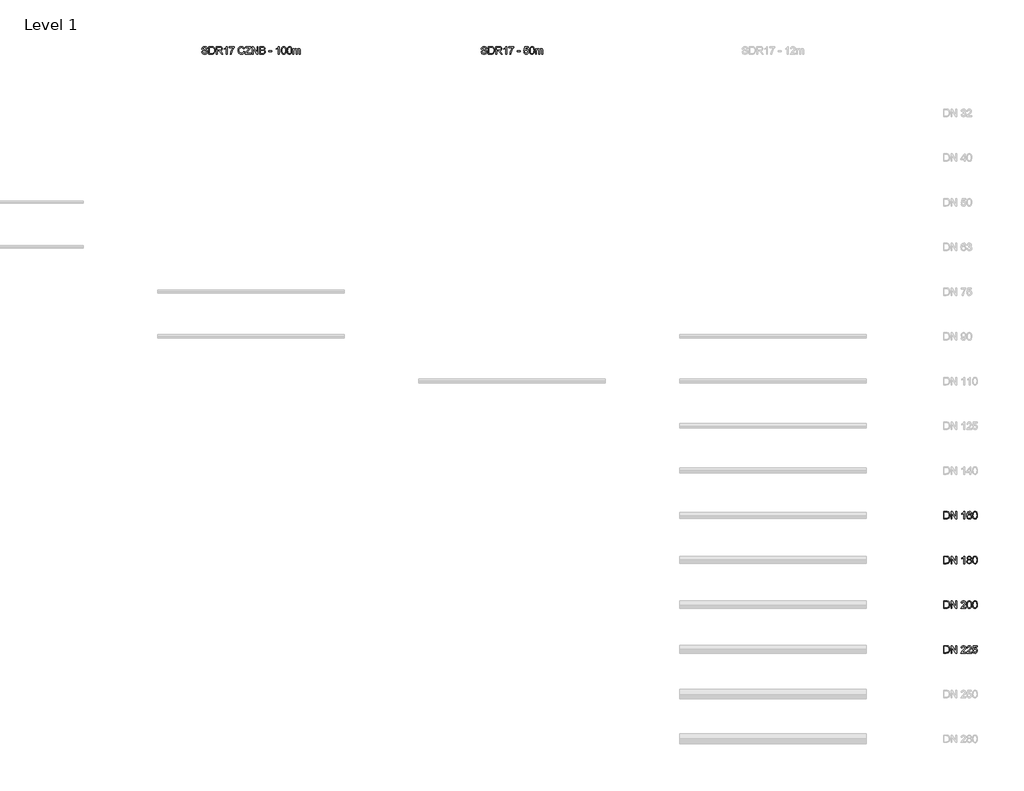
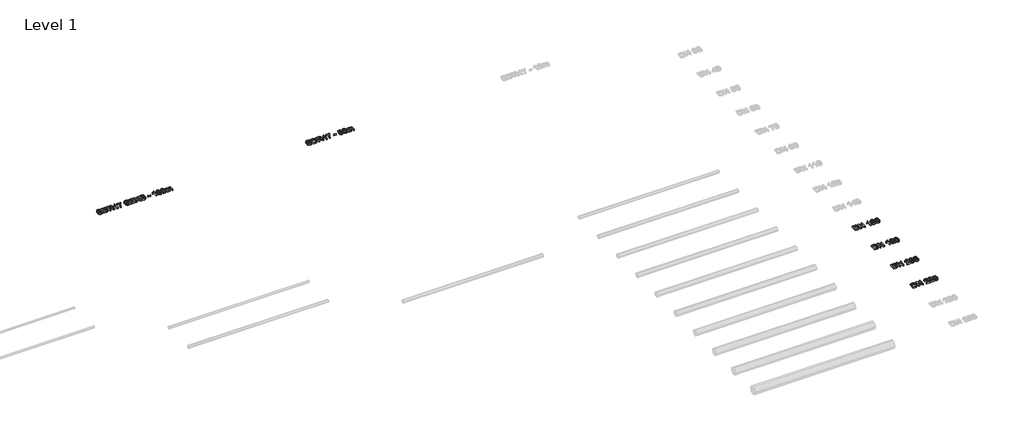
# One storey, part 20 of 26: 6 proxies.
"""IFC4 building model written with IfcOpenShell, lengths in millimetres."""

from ifc_helpers import new_model, si_unit, origin, origin_with_axes, place, context, project, spatial, polyline, outline, extrude, element, save

model = new_model("IFC4")

# Units and contexts
model_context = context("Model", 3, world=origin())
ifc_project = project(units=[si_unit("LENGTHUNIT", "METRE", prefix="MILLI")], contexts=[model_context])

# Site, building, storey
site = spatial("IfcSite", under=ifc_project)
building = spatial("IfcBuilding", under=site)
storey = spatial("IfcBuildingStorey", under=building, Name="Level 1", Elevation=0.0)

# Proxies
placement = place(None, origin())
element("IfcBuildingElementProxy", 1, Name="200mm Arial", ObjectType="200mm Arial", at=placement, inside=storey, context=model_context, shape_type="SweptSolid", body=[
    extrude(outline(polyline([(25539.3076926, -49213.949573), (25539.3076926, -49013.0369527), (25608.6166605, -49013.0369527), (25644.4728923, -49015.9309577), (25660.4880218, -49021.5105013), (25674.0015538, -49030.302881), (25687.8952305, -49045.606772), (25697.7912562, -49064.6385338), (25703.7141563, -49087.0302846), (25705.6884563, -49112.4141423), (25700.3419047, -49152.9547382), (25686.6076435, -49182.2136195), (25668.2625947, -49200.436041), (25644.2521631, -49210.5160077), (25611.9521239, -49213.949573), (25539.3076926, -49213.949573)]), holes=[polyline([(25564.4217702, -49188.8354954), (25608.8619152, -49188.8354954), (25641.1864798, -49185.2057264), (25659.8258342, -49174.9540815), (25668.5507689, -49164.0831685), (25675.1051998, -49150.0116822), (25679.207084, -49132.6783089), (25680.5743788, -49112.0217348), (25677.8949716, -49084.6513144), (25669.85675, -49064.4423301), (25657.9802929, -49050.5609162), (25643.7861793, -49042.1732067), (25608.1752021, -49038.1510302), (25564.4217702, -49038.1510302), (25564.4217702, -49188.8354954)])]), origin_with_axes(), (0.0, 0.0, 1.0), 50.0),
    extrude(outline(polyline([(25740.2203129, -49213.949573), (25740.2203129, -49013.0369527), (25767.100224, -49013.0369527), (25872.06922, -49172.2072292), (25872.06922, -49013.0369527), (25897.1832975, -49013.0369527), (25897.1832975, -49213.949573), (25870.3033864, -49213.949573), (25765.3343905, -49054.7302454), (25765.3343905, -49213.949573), (25740.2203129, -49213.949573)])), origin_with_axes(), (0.0, 0.0, 1.0), 50.0),
    extrude(outline(polyline([(26104.3744372, -49213.949573), (26079.2603597, -49213.949573), (26079.2603597, -49057.3789958), (26055.4706573, -49074.3260931), (26029.0322046, -49087.0057592), (26029.0322046, -49063.2651077), (26065.8449296, -49039.769711), (26079.315542, -49026.1948653), (26088.1876294, -49013.0369527), (26104.3744372, -49013.0369527), (26104.3744372, -49213.949573)])), origin_with_axes(), (0.0, 0.0, 1.0), 50.0),
    extrude(outline(polyline([(26292.7300188, -49066.4043674), (26267.6159412, -49069.5436271), (26258.1000603, -49048.5988789), (26246.7079812, -49040.7629924), (26232.9369318, -49038.1510302), (26210.2754009, -49044.2333458), (26200.8392277, -49053.8411973), (26193.1320999, -49067.066555), (26187.9265697, -49085.7733545), (26185.9951892, -49111.8255311), (26196.0690245, -49100.0717013), (26208.1416853, -49091.7882251), (26221.5387213, -49086.8770005), (26235.5856822, -49085.2399256), (26258.7867733, -49089.7158232), (26278.2599936, -49103.143516), (26291.4669572, -49123.6590686), (26295.8692784, -49149.3985455), (26293.7968765, -49167.3818437), (26287.5796708, -49184.0530295), (26277.7326961, -49198.1919608), (26264.7709871, -49208.5784958), (26249.2831551, -49214.9612484), (26231.8578113, -49217.0888326), (26203.3653508, -49211.4479754), (26180.673163, -49194.5254036), (26172.0141406, -49181.4165418), (26165.8291245, -49164.6533856), (26160.8811117, -49120.1641897), (26166.3748161, -49070.144501), (26173.2419467, -49051.0667539), (26182.8559295, -49035.9437382), (26193.276187, -49025.9220195), (26205.3580449, -49018.763649), (26234.5065616, -49013.0369527), (26256.5426932, -49016.5808825), (26274.1887662, -49027.2126722), (26286.5496012, -49044.0984558), (26292.7300188, -49066.4043674)]), holes=[polyline([(26185.9951892, -49149.0061381), (26191.8077247, -49170.7602267), (26207.2587685, -49186.554627), (26229.895774, -49191.9747551), (26246.4688579, -49189.1665892), (26259.4980119, -49180.7420915), (26267.9409036, -49167.4983397), (26270.7552009, -49150.2324114), (26267.9776918, -49133.6593275), (26259.6451647, -49121.022581), (26246.3952815, -49113.0211476), (26228.8657044, -49110.3540031), (26212.317146, -49113.0211476), (26198.4786516, -49121.022581), (26189.1160548, -49133.3527592), (26185.9951892, -49149.0061381)])]), origin_with_axes(), (0.0, 0.0, 1.0), 50.0),
    extrude(outline(polyline([(26317.8440963, -49115.1119436), (26319.6896376, -49082.9529258), (26325.2262617, -49057.3054194), (26334.3987861, -49037.7770168), (26347.1520286, -49023.9753106), (26363.5779597, -49015.7715422), (26383.7685498, -49013.0369527), (26399.2441191, -49014.6556334), (26413.1010076, -49019.5116758), (26424.6892904, -49027.4150073), (26433.3590428, -49038.1755557), (26445.1312666, -49067.9004209), (26449.6930034, -49115.1119436), (26447.8658561, -49147.0870203), (26442.3844144, -49172.6732131), (26433.2670723, -49192.2200098), (26420.5322239, -49206.0768983), (26404.0695046, -49214.335849), (26383.7685498, -49217.0888326), (26357.6734536, -49212.3063667), (26337.8568768, -49197.9589689), (26329.1012853, -49182.8298218), (26322.8472914, -49163.9789353), (26317.8440963, -49115.1119436)]), holes=[polyline([(26342.9581738, -49115.0628927), (26345.9012298, -49154.5672876), (26354.7303977, -49177.4311536), (26367.8760476, -49188.3388547), (26383.7685498, -49191.9747551), (26399.661052, -49188.326592), (26412.806702, -49177.3821026), (26421.6358699, -49154.5059739), (26424.5789258, -49115.0628927), (26421.7339717, -49076.4475459), (26413.1991094, -49053.4058703), (26400.0779849, -49041.9647402), (26383.4742442, -49038.1510302), (26367.7534203, -49041.5110191), (26355.1228051, -49051.5909857), (26345.9993317, -49076.0674012), (26342.9581738, -49115.0628927)])]), origin_with_axes(), (0.0, 0.0, 1.0), 50.0),
])
element("IfcBuildingElementProxy", 2, Name="200mm Arial", ObjectType="200mm Arial", at=placement, inside=storey, context=model_context, shape_type="SweptSolid", body=[
    extrude(outline(polyline([(25539.3076926, -51613.949573), (25539.3076926, -51413.0369527), (25608.6166605, -51413.0369527), (25644.4728923, -51415.9309577), (25660.4880218, -51421.5105013), (25674.0015538, -51430.302881), (25687.8952305, -51445.606772), (25697.7912562, -51464.6385338), (25703.7141563, -51487.0302846), (25705.6884563, -51512.4141423), (25700.3419047, -51552.9547382), (25686.6076435, -51582.2136195), (25668.2625947, -51600.436041), (25644.2521631, -51610.5160077), (25611.9521239, -51613.949573), (25539.3076926, -51613.949573)]), holes=[polyline([(25564.4217702, -51588.8354954), (25608.8619152, -51588.8354954), (25641.1864798, -51585.2057264), (25659.8258342, -51574.9540815), (25668.5507689, -51564.0831685), (25675.1051998, -51550.0116822), (25679.207084, -51532.6783089), (25680.5743788, -51512.0217348), (25677.8949716, -51484.6513144), (25669.85675, -51464.4423301), (25657.9802929, -51450.5609162), (25643.7861793, -51442.1732067), (25608.1752021, -51438.1510302), (25564.4217702, -51438.1510302), (25564.4217702, -51588.8354954)])]), origin_with_axes(), (0.0, 0.0, 1.0), 50.0),
    extrude(outline(polyline([(25740.2203129, -51613.949573), (25740.2203129, -51413.0369527), (25767.100224, -51413.0369527), (25872.06922, -51572.2072292), (25872.06922, -51413.0369527), (25897.1832975, -51413.0369527), (25897.1832975, -51613.949573), (25870.3033864, -51613.949573), (25765.3343905, -51454.7302454), (25765.3343905, -51613.949573), (25740.2203129, -51613.949573)])), origin_with_axes(), (0.0, 0.0, 1.0), 50.0),
    extrude(outline(polyline([(26138.9062938, -51588.8354954), (26138.9062938, -51613.949573), (26007.0573868, -51613.949573), (26009.7551881, -51596.6345937), (26025.0100281, -51569.9754118), (26056.451676, -51540.8636832), (26099.8127005, -51499.0232377), (26107.9428926, -51484.6022634), (26110.6529566, -51470.5736967), (26108.0961767, -51457.9982638), (26100.4258371, -51447.5442838), (26088.6352192, -51440.4993436), (26073.7176043, -51438.1510302), (26058.0519627, -51440.4441613), (26045.8812, -51447.3235546), (26038.0269194, -51458.2496499), (26035.310724, -51472.6828868), (26010.1966465, -51469.5436271), (26016.2850935, -51445.2511527), (26029.4491375, -51427.5069778), (26049.0020656, -51416.6544589), (26074.2571645, -51413.0369527), (26099.6962045, -51417.0591291), (26119.2123444, -51429.1256586), (26131.6283617, -51447.1518763), (26135.7670341, -51469.0531178), (26131.3033993, -51492.8673456), (26116.4654921, -51517.4909138), (26080.486633, -51551.9001431), (26051.5956336, -51576.0577275), (26040.2648682, -51588.8354954), (26138.9062938, -51588.8354954)])), origin_with_axes(), (0.0, 0.0, 1.0), 50.0),
    extrude(outline(polyline([(26164.0203714, -51515.1119436), (26165.8659127, -51482.9529258), (26171.4025367, -51457.3054194), (26180.5750612, -51437.7770168), (26193.3283037, -51423.9753106), (26209.7542347, -51415.7715422), (26229.9448249, -51413.0369527), (26245.4203942, -51414.6556334), (26259.2772827, -51419.5116758), (26270.8655655, -51427.4150073), (26279.5353179, -51438.1755557), (26291.3075417, -51467.9004209), (26295.8692784, -51515.1119436), (26294.0421312, -51547.0870203), (26288.5606895, -51572.6732131), (26279.4433474, -51592.2200098), (26266.708499, -51606.0768983), (26250.2457797, -51614.335849), (26229.9448249, -51617.0888326), (26203.8497287, -51612.3063667), (26184.0331519, -51597.9589689), (26175.2775604, -51582.8298218), (26169.0235665, -51563.9789353), (26164.0203714, -51515.1119436)]), holes=[polyline([(26189.1344489, -51515.0628927), (26192.0775049, -51554.5672876), (26200.9066728, -51577.4311536), (26214.0523227, -51588.3388547), (26229.9448249, -51591.9747551), (26245.8373271, -51588.326592), (26258.9829771, -51577.3821026), (26267.8121449, -51554.5059739), (26270.7552009, -51515.0628927), (26267.9102468, -51476.4475459), (26259.3753845, -51453.4058703), (26246.25426, -51441.9647402), (26229.6505193, -51438.1510302), (26213.9296954, -51441.5110191), (26201.2990802, -51451.5909857), (26192.1756067, -51476.0674012), (26189.1344489, -51515.0628927)])]), origin_with_axes(), (0.0, 0.0, 1.0), 50.0),
    extrude(outline(polyline([(26317.8440963, -51515.1119436), (26319.6896376, -51482.9529258), (26325.2262617, -51457.3054194), (26334.3987861, -51437.7770168), (26347.1520286, -51423.9753106), (26363.5779597, -51415.7715422), (26383.7685498, -51413.0369527), (26399.2441191, -51414.6556334), (26413.1010076, -51419.5116758), (26424.6892904, -51427.4150073), (26433.3590428, -51438.1755557), (26445.1312666, -51467.9004209), (26449.6930034, -51515.1119436), (26447.8658561, -51547.0870203), (26442.3844144, -51572.6732131), (26433.2670723, -51592.2200098), (26420.5322239, -51606.0768983), (26404.0695046, -51614.335849), (26383.7685498, -51617.0888326), (26357.6734536, -51612.3063667), (26337.8568768, -51597.9589689), (26329.1012853, -51582.8298218), (26322.8472914, -51563.9789353), (26317.8440963, -51515.1119436)]), holes=[polyline([(26342.9581738, -51515.0628927), (26345.9012298, -51554.5672876), (26354.7303977, -51577.4311536), (26367.8760476, -51588.3388547), (26383.7685498, -51591.9747551), (26399.661052, -51588.326592), (26412.806702, -51577.3821026), (26421.6358699, -51554.5059739), (26424.5789258, -51515.0628927), (26421.7339717, -51476.4475459), (26413.1991094, -51453.4058703), (26400.0779849, -51441.9647402), (26383.4742442, -51438.1510302), (26367.7534203, -51441.5110191), (26355.1228051, -51451.5909857), (26345.9993317, -51476.0674012), (26342.9581738, -51515.0628927)])]), origin_with_axes(), (0.0, 0.0, 1.0), 50.0),
])
element("IfcBuildingElementProxy", 3, Name="200mm Arial", ObjectType="200mm Arial", at=placement, inside=storey, context=model_context, shape_type="SweptSolid", body=[
    extrude(outline(polyline([(25539.3076926, -50413.949573), (25539.3076926, -50213.0369527), (25608.6166605, -50213.0369527), (25644.4728923, -50215.9309577), (25660.4880218, -50221.5105013), (25674.0015538, -50230.302881), (25687.8952305, -50245.606772), (25697.7912562, -50264.6385338), (25703.7141563, -50287.0302846), (25705.6884563, -50312.4141423), (25700.3419047, -50352.9547382), (25686.6076435, -50382.2136195), (25668.2625947, -50400.436041), (25644.2521631, -50410.5160077), (25611.9521239, -50413.949573), (25539.3076926, -50413.949573)]), holes=[polyline([(25564.4217702, -50388.8354954), (25608.8619152, -50388.8354954), (25641.1864798, -50385.2057264), (25659.8258342, -50374.9540815), (25668.5507689, -50364.0831685), (25675.1051998, -50350.0116822), (25679.207084, -50332.6783089), (25680.5743788, -50312.0217348), (25677.8949716, -50284.6513144), (25669.85675, -50264.4423301), (25657.9802929, -50250.5609162), (25643.7861793, -50242.1732067), (25608.1752021, -50238.1510302), (25564.4217702, -50238.1510302), (25564.4217702, -50388.8354954)])]), origin_with_axes(), (0.0, 0.0, 1.0), 50.0),
    extrude(outline(polyline([(25740.2203129, -50413.949573), (25740.2203129, -50213.0369527), (25767.100224, -50213.0369527), (25872.06922, -50372.2072292), (25872.06922, -50213.0369527), (25897.1832975, -50213.0369527), (25897.1832975, -50413.949573), (25870.3033864, -50413.949573), (25765.3343905, -50254.7302454), (25765.3343905, -50413.949573), (25740.2203129, -50413.949573)])), origin_with_axes(), (0.0, 0.0, 1.0), 50.0),
    extrude(outline(polyline([(26104.3744372, -50413.949573), (26079.2603597, -50413.949573), (26079.2603597, -50257.3789958), (26055.4706573, -50274.3260931), (26029.0322046, -50287.0057592), (26029.0322046, -50263.2651077), (26065.8449296, -50239.769711), (26079.315542, -50226.1948653), (26088.1876294, -50213.0369527), (26104.3744372, -50213.0369527), (26104.3744372, -50413.949573)])), origin_with_axes(), (0.0, 0.0, 1.0), 50.0),
    extrude(outline(polyline([(26200.6123672, -50303.2906688), (26187.1662802, -50296.6687929), (26177.7301071, -50287.6924722), (26172.1566948, -50276.5456478), (26170.2988908, -50263.4122605), (26174.3455927, -50243.7796247), (26186.4856985, -50227.5560287), (26205.3580449, -50216.6667217), (26229.6014684, -50213.0369527), (26253.9920447, -50216.7525608), (26273.1096457, -50227.8993853), (26285.4704807, -50244.3804986), (26289.5907591, -50264.0989736), (26287.7574804, -50276.8092965), (26282.2576446, -50287.7660486), (26273.0299379, -50296.687187), (26260.0130466, -50303.2906688), (26275.4702218, -50311.255314), (26286.7212795, -50322.9846183), (26293.5822787, -50337.9144959), (26295.8692784, -50355.4808612), (26291.3320672, -50379.4912927), (26277.7204333, -50399.332395), (26256.7021087, -50412.6497232), (26229.9448249, -50417.0888326), (26203.1875411, -50412.6313291), (26182.1692165, -50399.2588186), (26168.5575826, -50379.227644), (26164.0203714, -50354.7941481), (26166.3993416, -50336.5472012), (26173.5362523, -50321.5376158), (26185.0632215, -50310.2804267), (26200.6123672, -50303.2906688)]), holes=[polyline([(26195.4129683, -50264.1480245), (26197.6386544, -50275.110908), (26204.3157126, -50283.8664995), (26215.2479392, -50289.6054586), (26230.2391305, -50291.518445), (26244.8808339, -50289.6177213), (26255.6475136, -50283.9155504), (26262.2693896, -50275.4542645), (26264.4766815, -50265.276196), (26262.1958132, -50254.7118513), (26255.353208, -50245.974654), (26244.4393755, -50240.1069361), (26229.9448249, -50238.1510302), (26215.3583038, -50240.0640166), (26204.4628654, -50245.8029757), (26197.6754426, -50254.2152106), (26195.4129683, -50264.1480245)]), polyline([(26189.1344489, -50353.9112313), (26193.3283037, -50372.8203659), (26199.1347078, -50380.9321639), (26208.1662108, -50386.97156), (26230.1410286, -50391.9747551), (26247.2352787, -50389.3443988), (26260.0620976, -50381.45333), (26268.0819251, -50369.5032966), (26270.7552009, -50354.6960463), (26267.9960859, -50339.6374099), (26259.7187411, -50327.4237277), (26246.5976166, -50319.3303238), (26229.3071628, -50316.6325225), (26212.452036, -50319.2935356), (26199.7539758, -50327.2765749), (26191.7893306, -50339.2572652), (26189.1344489, -50353.9112313)])]), origin_with_axes(), (0.0, 0.0, 1.0), 50.0),
    extrude(outline(polyline([(26317.8440963, -50315.1119436), (26319.6896376, -50282.9529258), (26325.2262617, -50257.3054194), (26334.3987861, -50237.7770168), (26347.1520286, -50223.9753106), (26363.5779597, -50215.7715422), (26383.7685498, -50213.0369527), (26399.2441191, -50214.6556334), (26413.1010076, -50219.5116758), (26424.6892904, -50227.4150073), (26433.3590428, -50238.1755557), (26445.1312666, -50267.9004209), (26449.6930034, -50315.1119436), (26447.8658561, -50347.0870203), (26442.3844144, -50372.6732131), (26433.2670723, -50392.2200098), (26420.5322239, -50406.0768983), (26404.0695046, -50414.335849), (26383.7685498, -50417.0888326), (26357.6734536, -50412.3063667), (26337.8568768, -50397.9589689), (26329.1012853, -50382.8298218), (26322.8472914, -50363.9789353), (26317.8440963, -50315.1119436)]), holes=[polyline([(26342.9581738, -50315.0628927), (26345.9012298, -50354.5672876), (26354.7303977, -50377.4311536), (26367.8760476, -50388.3388547), (26383.7685498, -50391.9747551), (26399.661052, -50388.326592), (26412.806702, -50377.3821026), (26421.6358699, -50354.5059739), (26424.5789258, -50315.0628927), (26421.7339717, -50276.4475459), (26413.1991094, -50253.4058703), (26400.0779849, -50241.9647402), (26383.4742442, -50238.1510302), (26367.7534203, -50241.5110191), (26355.1228051, -50251.5909857), (26345.9993317, -50276.0674012), (26342.9581738, -50315.0628927)])]), origin_with_axes(), (0.0, 0.0, 1.0), 50.0),
])
element("IfcBuildingElementProxy", 4, Name="200mm Arial", ObjectType="200mm Arial", at=placement, inside=storey, context=model_context, shape_type="SweptSolid", body=[
    extrude(outline(polyline([(25539.3076926, -52813.949573), (25539.3076926, -52613.0369527), (25608.6166605, -52613.0369527), (25644.4728923, -52615.9309577), (25660.4880218, -52621.5105013), (25674.0015538, -52630.302881), (25687.8952305, -52645.606772), (25697.7912562, -52664.6385338), (25703.7141563, -52687.0302846), (25705.6884563, -52712.4141423), (25700.3419047, -52752.9547382), (25686.6076435, -52782.2136195), (25668.2625947, -52800.436041), (25644.2521631, -52810.5160077), (25611.9521239, -52813.949573), (25539.3076926, -52813.949573)]), holes=[polyline([(25564.4217702, -52788.8354954), (25608.8619152, -52788.8354954), (25641.1864798, -52785.2057264), (25659.8258342, -52774.9540815), (25668.5507689, -52764.0831685), (25675.1051998, -52750.0116822), (25679.207084, -52732.6783089), (25680.5743788, -52712.0217348), (25677.8949716, -52684.6513144), (25669.85675, -52664.4423301), (25657.9802929, -52650.5609162), (25643.7861793, -52642.1732067), (25608.1752021, -52638.1510302), (25564.4217702, -52638.1510302), (25564.4217702, -52788.8354954)])]), origin_with_axes(), (0.0, 0.0, 1.0), 50.0),
    extrude(outline(polyline([(25740.2203129, -52813.949573), (25740.2203129, -52613.0369527), (25767.100224, -52613.0369527), (25872.06922, -52772.2072292), (25872.06922, -52613.0369527), (25897.1832975, -52613.0369527), (25897.1832975, -52813.949573), (25870.3033864, -52813.949573), (25765.3343905, -52654.7302454), (25765.3343905, -52813.949573), (25740.2203129, -52813.949573)])), origin_with_axes(), (0.0, 0.0, 1.0), 50.0),
    extrude(outline(polyline([(26138.9062938, -52788.8354954), (26138.9062938, -52813.949573), (26007.0573868, -52813.949573), (26009.7551881, -52796.6345937), (26025.0100281, -52769.9754118), (26056.451676, -52740.8636832), (26099.8127005, -52699.0232377), (26107.9428926, -52684.6022634), (26110.6529566, -52670.5736967), (26108.0961767, -52657.9982638), (26100.4258371, -52647.5442838), (26088.6352192, -52640.4993436), (26073.7176043, -52638.1510302), (26058.0519627, -52640.4441613), (26045.8812, -52647.3235546), (26038.0269194, -52658.2496499), (26035.310724, -52672.6828868), (26010.1966465, -52669.5436271), (26016.2850935, -52645.2511527), (26029.4491375, -52627.5069778), (26049.0020656, -52616.6544589), (26074.2571645, -52613.0369527), (26099.6962045, -52617.0591291), (26119.2123444, -52629.1256586), (26131.6283617, -52647.1518763), (26135.7670341, -52669.0531178), (26131.3033993, -52692.8673456), (26116.4654921, -52717.4909138), (26080.486633, -52751.9001431), (26051.5956336, -52776.0577275), (26040.2648682, -52788.8354954), (26138.9062938, -52788.8354954)])), origin_with_axes(), (0.0, 0.0, 1.0), 50.0),
    extrude(outline(polyline([(26292.7300188, -52788.8354954), (26292.7300188, -52813.949573), (26160.8811117, -52813.949573), (26163.578913, -52796.6345937), (26178.833753, -52769.9754118), (26210.2754009, -52740.8636832), (26253.6364254, -52699.0232377), (26261.7666175, -52684.6022634), (26264.4766815, -52670.5736967), (26261.9199017, -52657.9982638), (26254.2495621, -52647.5442838), (26242.4589441, -52640.4993436), (26227.5413292, -52638.1510302), (26211.8756876, -52640.4441613), (26199.7049249, -52647.3235546), (26191.8506443, -52658.2496499), (26189.1344489, -52672.6828868), (26164.0203714, -52669.5436271), (26170.1088184, -52645.2511527), (26183.2728625, -52627.5069778), (26202.8257905, -52616.6544589), (26228.0808895, -52613.0369527), (26253.5199294, -52617.0591291), (26273.0360693, -52629.1256586), (26285.4520866, -52647.1518763), (26289.5907591, -52669.0531178), (26285.1271242, -52692.8673456), (26270.289217, -52717.4909138), (26234.3103579, -52751.9001431), (26205.4193586, -52776.0577275), (26194.0885931, -52788.8354954), (26292.7300188, -52788.8354954)])), origin_with_axes(), (0.0, 0.0, 1.0), 50.0),
    extrude(outline(polyline([(26317.8440963, -52760.5821582), (26342.9581738, -52757.4428985), (26347.5689615, -52772.5199289), (26355.6133145, -52783.3172655), (26367.0544445, -52789.8103827), (26381.8555634, -52791.9747551), (26399.8572557, -52788.9642541), (26413.3462622, -52779.9327511), (26421.7707599, -52765.9225785), (26424.5789258, -52747.9760685), (26421.9485696, -52731.0780222), (26414.0575008, -52718.1531014), (26400.8444058, -52709.9493329), (26382.2479709, -52707.2147434), (26360.1995767, -52711.5802764), (26346.0974335, -52722.9110419), (26320.983356, -52719.7717822), (26342.9581738, -52616.1762123), (26440.2752243, -52616.1762123), (26440.2752243, -52641.2902899), (26363.26526, -52641.2902899), (26352.5231057, -52696.619742), (26370.4634843, -52685.7304349), (26389.2622543, -52682.1006659), (26412.7269942, -52686.601089), (26432.2063459, -52700.1023582), (26445.321339, -52720.6792244), (26449.6930034, -52746.4064386), (26445.756666, -52771.5205162), (26433.947654, -52793.0048247), (26423.512068, -52803.5415782), (26411.335174, -52811.0678307), (26397.4169718, -52815.5835821), (26381.7574616, -52817.0888326), (26357.0909738, -52813.2199403), (26337.4399439, -52801.6132634), (26323.9693315, -52783.6177025), (26317.8440963, -52760.5821582)])), origin_with_axes(), (0.0, 0.0, 1.0), 50.0),
])
element("IfcBuildingElementProxy", 5, Name="200mm Arial", ObjectType="200mm Arial", at=placement, inside=storey, context=model_context, shape_type="SweptSolid", body=[
    extrude(outline(polyline([(13136.9986862, -36668.9871574), (13162.1127637, -36668.9871574), (13170.2061676, -36694.1257604), (13178.3363597, -36703.016242), (13189.9736935, -36710.0182626), (13204.198464, -36714.5616053), (13220.0909662, -36716.0760528), (13246.3332152, -36711.4897906), (13263.2803124, -36698.8837009), (13268.8475933, -36682.0347055), (13264.678264, -36666.3629325), (13258.3261682, -36660.1641209), (13247.6085394, -36654.9585907), (13211.0410691, -36645.3691333), (13171.6776956, -36632.9837728), (13159.1758391, -36624.5347497), (13150.3160144, -36614.2953675), (13145.0369078, -36602.4863554), (13143.2772056, -36589.3284427), (13145.4538407, -36574.6192943), (13151.9837461, -36560.9034272), (13162.6952436, -36549.2783562), (13177.4166547, -36540.8415958), (13195.0872532, -36535.7096419), (13214.6463127, -36533.9989907), (13235.8363156, -36535.7893497), (13254.3775681, -36541.1604268), (13269.6078827, -36550.0018575), (13280.8650718, -36562.203277), (13287.9897198, -36577.0043959), (13290.8224111, -36593.6449248), (13265.7083336, -36593.6449248), (13261.0975459, -36578.6598649), (13251.4835631, -36567.8441342), (13236.461715, -36561.2958347), (13215.6273313, -36559.1130682), (13194.3024383, -36561.2713092), (13179.6729976, -36567.7460324), (13171.2117118, -36577.274176), (13168.3912831, -36588.5926788), (13170.3901086, -36598.2434498), (13176.3865852, -36606.0057599), (13190.5623047, -36612.9464668), (13217.3931649, -36620.0343266), (13261.8333099, -36632.6404163), (13276.1500509, -36641.7516271), (13286.138047, -36652.9965534), (13292.0057649, -36666.2525679), (13293.9616708, -36681.3970434), (13291.7114593, -36696.878744), (13284.9608247, -36711.4407397), (13273.9856785, -36723.973253), (13259.0619322, -36733.3665066), (13241.1154222, -36739.2342244), (13221.0719848, -36741.1901304), (13196.4668107, -36739.0809402), (13176.2149069, -36732.7533699), (13160.0832814, -36722.1828939), (13147.8389423, -36707.3449868), (13139.9785304, -36689.2697181), (13136.9986862, -36668.9871574)])), origin_with_axes(), (0.0, 0.0, 1.0), 50.0),
    extrude(outline(polyline([(13331.6327871, -36738.0508707), (13331.6327871, -36537.1382504), (13400.941755, -36537.1382504), (13436.7979868, -36540.0322554), (13452.8131163, -36545.611799), (13466.3266483, -36554.4041787), (13480.220325, -36569.7080697), (13490.1163506, -36588.7398315), (13496.0392508, -36611.1315823), (13498.0135508, -36636.51544), (13492.6669991, -36677.0560359), (13478.932738, -36706.3149172), (13460.5876892, -36724.5373387), (13436.5772576, -36734.6173054), (13404.2772184, -36738.0508707), (13331.6327871, -36738.0508707)]), holes=[polyline([(13356.7468647, -36712.9367931), (13401.1870097, -36712.9367931), (13433.5115743, -36709.3070241), (13452.1509287, -36699.0553792), (13460.8758634, -36688.1844662), (13467.4302943, -36674.1129799), (13471.5321785, -36656.7796066), (13472.8994733, -36636.1230325), (13470.2200661, -36608.7526121), (13462.1818445, -36588.5436278), (13450.3053874, -36574.6622139), (13436.1112737, -36566.2745044), (13400.5002966, -36562.2523279), (13356.7468647, -36562.2523279), (13356.7468647, -36712.9367931)])]), origin_with_axes(), (0.0, 0.0, 1.0), 50.0),
    extrude(outline(polyline([(13532.5454074, -36738.0508707), (13532.5454074, -36537.1382504), (13619.1203036, -36537.1382504), (13642.3888398, -36538.4932824), (13659.317543, -36542.5583784), (13671.6906407, -36550.0631711), (13681.2923608, -36561.7372931), (13687.4543842, -36576.2134496), (13689.508392, -36592.1243459), (13686.1054836, -36611.9163972), (13675.8967582, -36628.3239342), (13658.5756476, -36640.3536755), (13633.8355834, -36647.0123396), (13648.1094048, -36657.7544938), (13668.4655419, -36683.6043354), (13701.9673289, -36738.0508707), (13672.782024, -36738.0508707), (13646.6378769, -36696.4066288), (13627.7532678, -36668.8400046), (13614.4849905, -36655.816982), (13602.5410884, -36651.0345161), (13587.9729614, -36650.1515993), (13557.659485, -36650.1515993), (13557.659485, -36738.0508707), (13532.5454074, -36738.0508707)]), holes=[polyline([(13557.659485, -36625.0375217), (13613.8718538, -36625.0375217), (13642.542124, -36621.4813291), (13651.9721658, -36616.8582787), (13658.8270336, -36610.1015127), (13664.3943145, -36593.0563136), (13661.7394328, -36580.8058432), (13653.7747876, -36570.934343), (13640.0711832, -36564.4228317), (13620.1994241, -36562.2523279), (13557.659485, -36562.2523279), (13557.659485, -36625.0375217)])]), origin_with_axes(), (0.0, 0.0, 1.0), 50.0),
    extrude(outline(polyline([(13818.2180394, -36738.0508707), (13793.1039619, -36738.0508707), (13793.1039619, -36581.4802935), (13769.3142595, -36598.4273908), (13742.8758068, -36611.1070569), (13742.8758068, -36587.3664054), (13779.6885318, -36563.8710087), (13793.1591442, -36550.2961631), (13802.0312316, -36537.1382504), (13818.2180394, -36537.1382504), (13818.2180394, -36738.0508707)])), origin_with_axes(), (0.0, 0.0, 1.0), 50.0),
    extrude(outline(polyline([(13877.8639736, -36565.3915876), (13877.8639736, -36540.2775101), (14009.7128806, -36540.2775101), (14009.7128806, -36560.5845962), (13990.920242, -36584.3681672), (13972.3115445, -36614.6141985), (13955.8978761, -36648.5635753), (13943.6903252, -36683.4571826), (13934.370648, -36738.0508707), (13909.2565705, -36738.0508707), (13911.9727659, -36712.1642409), (13919.2384353, -36681.3970434), (13930.857375, -36648.7843045), (13946.6333812, -36617.3610508), (13965.0520064, -36588.9544294), (13984.5988031, -36565.3915876), (13877.8639736, -36565.3915876)])), origin_with_axes(), (0.0, 0.0, 1.0), 50.0),
    extrude(outline(polyline([(14103.8906714, -36678.4049365), (14103.8906714, -36653.290859), (14182.3721637, -36653.290859), (14182.3721637, -36678.4049365), (14103.8906714, -36678.4049365)])), origin_with_axes(), (0.0, 0.0, 1.0), 50.0),
    extrude(outline(polyline([(14282.8284738, -36684.6834559), (14307.9425514, -36681.5441962), (14312.5533391, -36696.6212266), (14320.597692, -36707.4185632), (14332.0388221, -36713.9116804), (14346.839941, -36716.0760528), (14364.8416333, -36713.0655518), (14378.3306398, -36704.0340488), (14386.7551375, -36690.0238762), (14389.5633034, -36672.0773662), (14386.9329471, -36655.1793199), (14379.0418783, -36642.2543991), (14365.8287833, -36634.0506306), (14347.2323485, -36631.3160411), (14325.1839542, -36635.6815741), (14311.0818111, -36647.0123396), (14285.9677335, -36643.8730799), (14307.9425514, -36540.2775101), (14405.2596018, -36540.2775101), (14405.2596018, -36565.3915876), (14328.2496375, -36565.3915876), (14317.5074833, -36620.7210397), (14335.4478619, -36609.8317326), (14354.2466318, -36606.2019636), (14377.7113718, -36610.7023867), (14397.1907234, -36624.2036559), (14410.3057165, -36644.7805221), (14414.6773809, -36670.5077363), (14410.7410436, -36695.6218139), (14398.9320315, -36717.1061224), (14388.4964456, -36727.6428759), (14376.3195516, -36735.1691284), (14362.4013494, -36739.6848799), (14346.7418391, -36741.1901304), (14322.0753514, -36737.321238), (14302.4243215, -36725.7145611), (14288.9537091, -36707.7190002), (14282.8284738, -36684.6834559)])), origin_with_axes(), (0.0, 0.0, 1.0), 50.0),
    extrude(outline(polyline([(14436.6521988, -36639.2132413), (14438.4977401, -36607.0542235), (14444.0343641, -36581.4067171), (14453.2068885, -36561.8783145), (14465.960131, -36548.0766083), (14482.3860621, -36539.8728399), (14502.5766523, -36537.1382504), (14518.0522216, -36538.7569311), (14531.90911, -36543.6129735), (14543.4973929, -36551.516305), (14552.1671452, -36562.2768534), (14563.9393691, -36592.0017186), (14568.5011058, -36639.2132413), (14566.6739586, -36671.188318), (14561.1925169, -36696.7745108), (14552.0751748, -36716.3213075), (14539.3403264, -36730.178196), (14522.8776071, -36738.4371468), (14502.5766523, -36741.1901304), (14476.4815561, -36736.4076644), (14456.6649793, -36722.0602666), (14447.9093878, -36706.9311195), (14441.6553939, -36688.080233), (14436.6521988, -36639.2132413)]), holes=[polyline([(14461.7662763, -36639.1641904), (14464.7093323, -36678.6685853), (14473.5385001, -36701.5324513), (14486.6841501, -36712.4401524), (14502.5766523, -36716.0760528), (14518.4691545, -36712.4278897), (14531.6148045, -36701.4834003), (14540.4439723, -36678.6072716), (14543.3870283, -36639.1641904), (14540.5420742, -36600.5488436), (14532.0072119, -36577.507168), (14518.8860874, -36566.0660379), (14502.2823467, -36562.2523279), (14486.5615228, -36565.6123168), (14473.9309076, -36575.6922835), (14464.8074341, -36600.1686989), (14461.7662763, -36639.1641904)])]), origin_with_axes(), (0.0, 0.0, 1.0), 50.0),
    extrude(outline(polyline([(14596.7544431, -36738.0508707), (14596.7544431, -36590.5056651), (14621.8685206, -36590.5056651), (14621.8685206, -36614.7858768), (14629.4223642, -36603.632921), (14639.1344489, -36594.8957236), (14650.6736808, -36589.248735), (14663.7089662, -36587.3664054), (14677.6762193, -36589.2855232), (14688.8720947, -36595.0428764), (14697.2352787, -36604.2583204), (14702.7044577, -36616.5517104), (14711.858588, -36603.7831395), (14722.3003053, -36594.6627317), (14734.0296096, -36589.190487), (14747.0465008, -36587.3664054), (14765.9249785, -36590.4014319), (14779.8861003, -36599.5065113), (14788.5129331, -36614.9268982), (14791.388544, -36636.9078475), (14791.388544, -36738.0508707), (14766.2744664, -36738.0508707), (14766.2744664, -36647.6990526), (14763.9445471, -36626.7297789), (14755.5077867, -36616.4045576), (14741.1603889, -36612.480483), (14727.5548865, -36614.9943433), (14716.4632443, -36622.5359242), (14709.0872103, -36635.6202605), (14706.6285323, -36654.762387), (14706.6285323, -36738.0508707), (14681.5144548, -36738.0508707), (14681.5144548, -36644.9031495), (14680.0613209, -36630.7029045), (14675.7019192, -36620.5738869), (14668.0315796, -36614.5038339), (14656.6456319, -36612.480483), (14638.0553284, -36617.8760856), (14630.6976885, -36624.5224869), (14625.6944934, -36633.6704859), (14621.8685206, -36663.6406058), (14621.8685206, -36738.0508707), (14596.7544431, -36738.0508707)])), origin_with_axes(), (0.0, 0.0, 1.0), 50.0),
])
element("IfcBuildingElementProxy", 6, Name="200mm Arial", ObjectType="200mm Arial", at=placement, inside=storey, context=model_context, shape_type="SweptSolid", body=[
    extrude(outline(polyline([(5642.5652847, -36668.9871574), (5667.6793622, -36668.9871574), (5675.7727661, -36694.1257604), (5683.9029582, -36703.016242), (5695.540292, -36710.0182626), (5709.7650625, -36714.5616053), (5725.6575647, -36716.0760528), (5751.8998137, -36711.4897906), (5768.8469109, -36698.8837009), (5774.4141918, -36682.0347055), (5770.2448625, -36666.3629325), (5763.8927667, -36660.1641209), (5753.1751379, -36654.9585907), (5716.6076676, -36645.3691333), (5677.2442941, -36632.9837728), (5664.7424376, -36624.5347497), (5655.8826129, -36614.2953675), (5650.6035063, -36602.4863554), (5648.8438041, -36589.3284427), (5651.0204392, -36574.6192943), (5657.5503446, -36560.9034272), (5668.261842, -36549.2783562), (5682.9832532, -36540.8415958), (5700.6538517, -36535.7096419), (5720.2129111, -36533.9989907), (5741.4029141, -36535.7893497), (5759.9441666, -36541.1604268), (5775.1744812, -36550.0018575), (5786.4316703, -36562.203277), (5793.5563182, -36577.0043959), (5796.3890096, -36593.6449248), (5771.2749321, -36593.6449248), (5766.6641444, -36578.6598649), (5757.0501616, -36567.8441342), (5742.0283134, -36561.2958347), (5721.1939298, -36559.1130682), (5699.8690368, -36561.2713092), (5685.2395961, -36567.7460324), (5676.7783102, -36577.274176), (5673.9578816, -36588.5926788), (5675.9567071, -36598.2434498), (5681.9531836, -36606.0057599), (5696.1289032, -36612.9464668), (5722.9597634, -36620.0343266), (5767.3999084, -36632.6404163), (5781.7166494, -36641.7516271), (5791.7046455, -36652.9965534), (5797.5723634, -36666.2525679), (5799.5282693, -36681.3970434), (5797.2780578, -36696.878744), (5790.5274231, -36711.4407397), (5779.552277, -36723.973253), (5764.6285307, -36733.3665066), (5746.6820207, -36739.2342244), (5726.6385833, -36741.1901304), (5702.0334092, -36739.0809402), (5681.7815054, -36732.7533699), (5665.6498799, -36722.1828939), (5653.4055408, -36707.3449868), (5645.5451288, -36689.2697181), (5642.5652847, -36668.9871574)])), origin_with_axes(), (0.0, 0.0, 1.0), 50.0),
    extrude(outline(polyline([(5837.1993856, -36738.0508707), (5837.1993856, -36537.1382504), (5906.5083535, -36537.1382504), (5942.3645853, -36540.0322554), (5958.3797148, -36545.611799), (5971.8932468, -36554.4041787), (5985.7869235, -36569.7080697), (5995.6829491, -36588.7398315), (6001.6058492, -36611.1315823), (6003.5801493, -36636.51544), (5998.2335976, -36677.0560359), (5984.4993365, -36706.3149172), (5966.1542876, -36724.5373387), (5942.1438561, -36734.6173054), (5909.8438169, -36738.0508707), (5837.1993856, -36738.0508707)]), holes=[polyline([(5862.3134631, -36712.9367931), (5906.7536082, -36712.9367931), (5939.0781728, -36709.3070241), (5957.7175272, -36699.0553792), (5966.4424619, -36688.1844662), (5972.9968928, -36674.1129799), (5977.098777, -36656.7796066), (5978.4660717, -36636.1230325), (5975.7866646, -36608.7526121), (5967.748443, -36588.5436278), (5955.8719859, -36574.6622139), (5941.6778722, -36566.2745044), (5906.0668951, -36562.2523279), (5862.3134631, -36562.2523279), (5862.3134631, -36712.9367931)])]), origin_with_axes(), (0.0, 0.0, 1.0), 50.0),
    extrude(outline(polyline([(6038.1120059, -36738.0508707), (6038.1120059, -36537.1382504), (6124.6869021, -36537.1382504), (6147.9554383, -36538.4932824), (6164.8841414, -36542.5583784), (6177.2572392, -36550.0631711), (6186.8589593, -36561.7372931), (6193.0209827, -36576.2134496), (6195.0749905, -36592.1243459), (6191.6720821, -36611.9163972), (6181.4633567, -36628.3239342), (6164.1422461, -36640.3536755), (6139.4021819, -36647.0123396), (6153.6760033, -36657.7544938), (6174.0321404, -36683.6043354), (6207.5339274, -36738.0508707), (6178.3486225, -36738.0508707), (6152.2044753, -36696.4066288), (6133.3198663, -36668.8400046), (6120.051589, -36655.816982), (6108.1076868, -36651.0345161), (6093.5395598, -36650.1515993), (6063.2260834, -36650.1515993), (6063.2260834, -36738.0508707), (6038.1120059, -36738.0508707)]), holes=[polyline([(6063.2260834, -36625.0375217), (6119.4384523, -36625.0375217), (6148.1087225, -36621.4813291), (6157.5387643, -36616.8582787), (6164.3936321, -36610.1015127), (6169.960913, -36593.0563136), (6167.3060312, -36580.8058432), (6159.341386, -36570.934343), (6145.6377817, -36564.4228317), (6125.7660226, -36562.2523279), (6063.2260834, -36562.2523279), (6063.2260834, -36625.0375217)])]), origin_with_axes(), (0.0, 0.0, 1.0), 50.0),
    extrude(outline(polyline([(6323.7846379, -36738.0508707), (6298.6705604, -36738.0508707), (6298.6705604, -36581.4802935), (6274.880858, -36598.4273908), (6248.4424053, -36611.1070569), (6248.4424053, -36587.3664054), (6285.2551303, -36563.8710087), (6298.7257426, -36550.2961631), (6307.5978301, -36537.1382504), (6323.7846379, -36537.1382504), (6323.7846379, -36738.0508707)])), origin_with_axes(), (0.0, 0.0, 1.0), 50.0),
    extrude(outline(polyline([(6383.430572, -36565.3915876), (6383.430572, -36540.2775101), (6515.2794791, -36540.2775101), (6515.2794791, -36560.5845962), (6496.4868405, -36584.3681672), (6477.8781429, -36614.6141985), (6461.4644746, -36648.5635753), (6449.2569237, -36683.4571826), (6439.9372465, -36738.0508707), (6414.823169, -36738.0508707), (6417.5393644, -36712.1642409), (6424.8050338, -36681.3970434), (6436.4239734, -36648.7843045), (6452.1999797, -36617.3610508), (6470.6186049, -36588.9544294), (6490.1654016, -36565.3915876), (6383.430572, -36565.3915876)])), origin_with_axes(), (0.0, 0.0, 1.0), 50.0),
    extrude(outline(polyline([(6766.4202545, -36666.6327127), (6791.534332, -36673.1074358), (6779.9460492, -36702.3724485), (6761.7604159, -36723.7525238), (6737.8726117, -36736.8307287), (6709.177816, -36741.1901304), (6680.0476934, -36737.8914551), (6656.9140473, -36727.9954295), (6639.1821351, -36711.8454099), (6626.2572143, -36689.7847529), (6618.3661455, -36663.8490722), (6615.7357893, -36636.0739816), (6618.7095021, -36606.778312), (6627.6306404, -36581.4802935), (6642.0332205, -36560.983135), (6661.4512585, -36546.0900456), (6684.4806714, -36537.0217544), (6709.7173763, -36533.9989907), (6737.2533436, -36537.9108025), (6760.0191078, -36549.6462382), (6777.3034302, -36568.4817963), (6788.3950723, -36593.6939758), (6763.2809948, -36599.6781895), (6754.5744542, -36581.3637975), (6742.6796031, -36568.8006274), (6727.4492885, -36561.534958), (6708.7363576, -36559.1130682), (6687.16621, -36561.7986068), (6669.4465606, -36569.8552225), (6656.0004736, -36582.4367867), (6647.2510135, -36598.6971709), (6642.4501535, -36617.0790079), (6640.8498668, -36636.0249307), (6642.7444591, -36659.2260218), (6648.4282359, -36679.2878533), (6658.1157951, -36695.4440043), (6672.0217345, -36706.9280539), (6688.6929203, -36713.7890531), (6706.6762185, -36716.0760528), (6727.6393608, -36712.9613186), (6745.1076242, -36703.6171159), (6758.2961938, -36688.1415466), (6766.4202545, -36666.6327127)])), origin_with_axes(), (0.0, 0.0, 1.0), 50.0),
    extrude(outline(polyline([(6810.3698902, -36738.0508707), (6810.3698902, -36712.0048254), (6913.1315942, -36586.189183), (6932.6538654, -36562.2523279), (6822.9269289, -36562.2523279), (6822.9269289, -36537.1382504), (6964.1936151, -36537.1382504), (6964.1936151, -36562.2523279), (6851.7198264, -36699.938296), (6841.124825, -36712.9367931), (6967.3328748, -36712.9367931), (6967.3328748, -36738.0508707), (6810.3698902, -36738.0508707)])), origin_with_axes(), (0.0, 0.0, 1.0), 50.0),
    extrude(outline(polyline([(6995.586212, -36738.0508707), (6995.586212, -36537.1382504), (7022.4661231, -36537.1382504), (7127.4351191, -36696.3085269), (7127.4351191, -36537.1382504), (7152.5491966, -36537.1382504), (7152.5491966, -36738.0508707), (7125.6692855, -36738.0508707), (7020.7002896, -36578.8315431), (7020.7002896, -36738.0508707), (6995.586212, -36738.0508707)])), origin_with_axes(), (0.0, 0.0, 1.0), 50.0),
    extrude(outline(polyline([(7196.4988323, -36738.0508707), (7196.4988323, -36537.1382504), (7273.1654401, -36537.1382504), (7294.2512098, -36538.6159097), (7310.7139291, -36543.0488877), (7323.3322815, -36550.5475491), (7332.8849507, -36561.2222583), (7338.8998213, -36573.7792971), (7340.9047782, -36586.924947), (7339.2186523, -36599.0221333), (7334.1602749, -36610.3958183), (7325.6928577, -36620.3470263), (7313.7796124, -36628.1767814), (7328.0105142, -36635.6079977), (7338.5258079, -36646.9142377), (7345.0189251, -36661.3474747), (7347.1832975, -36678.1596818), (7341.2726601, -36705.1622203), (7326.6309567, -36724.3901859), (7304.7787662, -36734.5927799), (7272.5768289, -36738.0508707), (7196.4988323, -36738.0508707)]), holes=[polyline([(7221.6129099, -36618.7590024), (7267.4755319, -36618.7590024), (7294.2573412, -36616.6007613), (7310.3705726, -36607.3056096), (7315.7907006, -36590.9471235), (7310.7384545, -36574.564112), (7296.2684294, -36564.8765528), (7263.9929157, -36562.2523279), (7221.6129099, -36562.2523279), (7221.6129099, -36618.7590024)]), polyline([(7221.6129099, -36712.9367931), (7273.1163892, -36712.9367931), (7291.7557436, -36711.9557745), (7307.5256185, -36706.4865955), (7317.9734671, -36695.3275083), (7322.06922, -36678.4049365), (7317.2622286, -36658.8826653), (7310.9653151, -36651.8254624), (7301.6885575, -36647.2330688), (7270.6638425, -36643.8730799), (7221.6129099, -36643.8730799), (7221.6129099, -36712.9367931)])]), origin_with_axes(), (0.0, 0.0, 1.0), 50.0),
    extrude(outline(polyline([(7444.500348, -36678.4049365), (7444.500348, -36653.290859), (7522.9818403, -36653.290859), (7522.9818403, -36678.4049365), (7444.500348, -36678.4049365)])), origin_with_axes(), (0.0, 0.0, 1.0), 50.0),
    extrude(outline(polyline([(7717.6159412, -36738.0508707), (7692.5018637, -36738.0508707), (7692.5018637, -36581.4802935), (7668.7121613, -36598.4273908), (7642.2737086, -36611.1070569), (7642.2737086, -36587.3664054), (7679.0864336, -36563.8710087), (7692.557046, -36550.2961631), (7701.4291334, -36537.1382504), (7717.6159412, -36537.1382504), (7717.6159412, -36738.0508707)])), origin_with_axes(), (0.0, 0.0, 1.0), 50.0),
    extrude(outline(polyline([(7777.2618754, -36639.2132413), (7779.1074167, -36607.0542235), (7784.6440407, -36581.4067171), (7793.8165651, -36561.8783145), (7806.5698076, -36548.0766083), (7822.9957387, -36539.8728399), (7843.1863289, -36537.1382504), (7858.6618982, -36538.7569311), (7872.5187866, -36543.6129735), (7884.1070695, -36551.516305), (7892.7768219, -36562.2768534), (7904.5490457, -36592.0017186), (7909.1107824, -36639.2132413), (7907.2836352, -36671.188318), (7901.8021935, -36696.7745108), (7892.6848514, -36716.3213075), (7879.950003, -36730.178196), (7863.4872837, -36738.4371468), (7843.1863289, -36741.1901304), (7817.0912327, -36736.4076644), (7797.2746559, -36722.0602666), (7788.5190644, -36706.9311195), (7782.2650705, -36688.080233), (7777.2618754, -36639.2132413)]), holes=[polyline([(7802.3759529, -36639.1641904), (7805.3190089, -36678.6685853), (7814.1481767, -36701.5324513), (7827.2938267, -36712.4401524), (7843.1863289, -36716.0760528), (7859.0788311, -36712.4278897), (7872.2244811, -36701.4834003), (7881.0536489, -36678.6072716), (7883.9967049, -36639.1641904), (7881.1517508, -36600.5488436), (7872.6168885, -36577.507168), (7859.495764, -36566.0660379), (7842.8920233, -36562.2523279), (7827.1711994, -36565.6123168), (7814.5405842, -36575.6922835), (7805.4171107, -36600.1686989), (7802.3759529, -36639.1641904)])]), origin_with_axes(), (0.0, 0.0, 1.0), 50.0),
    extrude(outline(polyline([(7931.0856003, -36639.2132413), (7932.9311416, -36607.0542235), (7938.4677657, -36581.4067171), (7947.6402901, -36561.8783145), (7960.3935326, -36548.0766083), (7976.8194636, -36539.8728399), (7997.0100538, -36537.1382504), (8012.4856231, -36538.7569311), (8026.3425116, -36543.6129735), (8037.9307944, -36551.516305), (8046.6005468, -36562.2768534), (8058.3727706, -36592.0017186), (8062.9345074, -36639.2132413), (8061.1073601, -36671.188318), (8055.6259184, -36696.7745108), (8046.5085763, -36716.3213075), (8033.7737279, -36730.178196), (8017.3110086, -36738.4371468), (7997.0100538, -36741.1901304), (7970.9149576, -36736.4076644), (7951.0983808, -36722.0602666), (7942.3427893, -36706.9311195), (7936.0887954, -36688.080233), (7931.0856003, -36639.2132413)]), holes=[polyline([(7956.1996778, -36639.1641904), (7959.1427338, -36678.6685853), (7967.9719017, -36701.5324513), (7981.1175516, -36712.4401524), (7997.0100538, -36716.0760528), (8012.902556, -36712.4278897), (8026.048206, -36701.4834003), (8034.8773739, -36678.6072716), (8037.8204298, -36639.1641904), (8034.9754757, -36600.5488436), (8026.4406134, -36577.507168), (8013.3194889, -36566.0660379), (7996.7157482, -36562.2523279), (7980.9949243, -36565.6123168), (7968.3643091, -36575.6922835), (7959.2408356, -36600.1686989), (7956.1996778, -36639.1641904)])]), origin_with_axes(), (0.0, 0.0, 1.0), 50.0),
    extrude(outline(polyline([(8091.1878446, -36738.0508707), (8091.1878446, -36590.5056651), (8116.3019221, -36590.5056651), (8116.3019221, -36614.7858768), (8123.8557658, -36603.632921), (8133.5678504, -36594.8957236), (8145.1070823, -36589.248735), (8158.1423677, -36587.3664054), (8172.1096208, -36589.2855232), (8183.3054962, -36595.0428764), (8191.6686802, -36604.2583204), (8197.1378592, -36616.5517104), (8206.2919895, -36603.7831395), (8216.7337068, -36594.6627317), (8228.4630111, -36589.190487), (8241.4799023, -36587.3664054), (8260.3583801, -36590.4014319), (8274.3195018, -36599.5065113), (8282.9463346, -36614.9268982), (8285.8219455, -36636.9078475), (8285.8219455, -36738.0508707), (8260.707868, -36738.0508707), (8260.707868, -36647.6990526), (8258.3779487, -36626.7297789), (8249.9411882, -36616.4045576), (8235.5937904, -36612.480483), (8221.988288, -36614.9943433), (8210.8966458, -36622.5359242), (8203.5206118, -36635.6202605), (8201.0619338, -36654.762387), (8201.0619338, -36738.0508707), (8175.9478563, -36738.0508707), (8175.9478563, -36644.9031495), (8174.4947224, -36630.7029045), (8170.1353207, -36620.5738869), (8162.4649811, -36614.5038339), (8151.0790334, -36612.480483), (8132.4887299, -36617.8760856), (8125.13109, -36624.5224869), (8120.1278949, -36633.6704859), (8116.3019221, -36663.6406058), (8116.3019221, -36738.0508707), (8091.1878446, -36738.0508707)])), origin_with_axes(), (0.0, 0.0, 1.0), 50.0),
])

save(model, "model.ifc")
